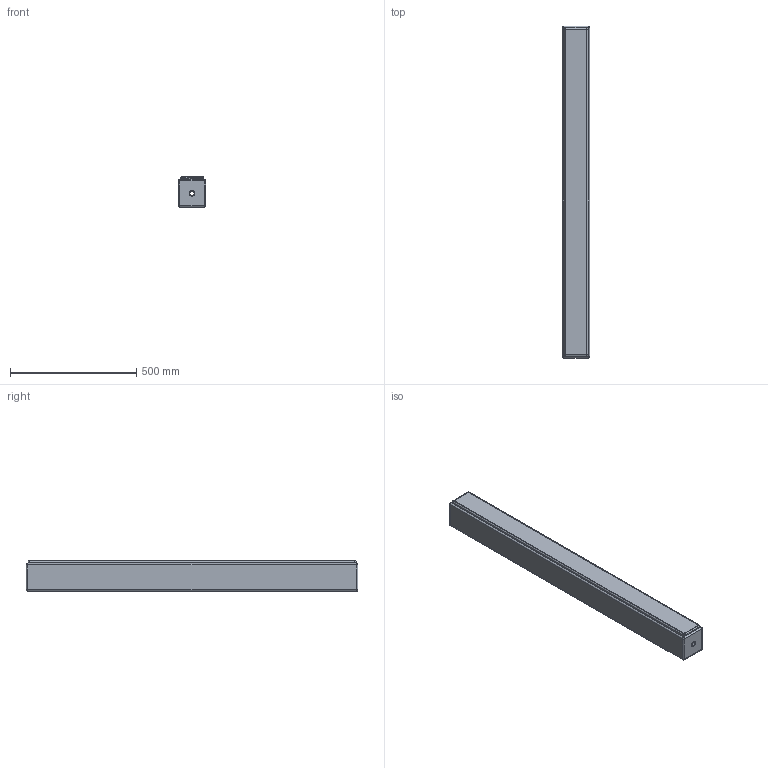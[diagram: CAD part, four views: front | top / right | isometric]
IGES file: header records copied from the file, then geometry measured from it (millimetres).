
Start section: SolidWorks IGES file using analytic representation for surfaces
Global section: file name: C:\Dokumente und Einstellungen\PC_Fabian\Desktop\SW-Konstruktionen Michl2010\L-Serie\L16i\Internet\SEEBURG_L16i.IGS; native system: SolidWorks 2009; preprocessor: SolidWorks 2009; author: PC_Fabian; date: 120926.111113; units: millimetre
Bounding box: 108 x 1315 x 120 mm (x, y, z)
Surface area: 1378999.9 mm2 (no closed solid volume)
Topology: 0 solids, 0 shells, 104 faces, 1040 edges, 1035 vertices
Faces by surface type: revolution 68, bspline 36
